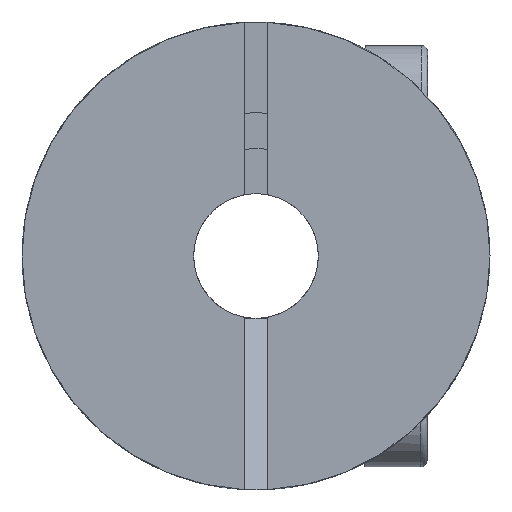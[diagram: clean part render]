
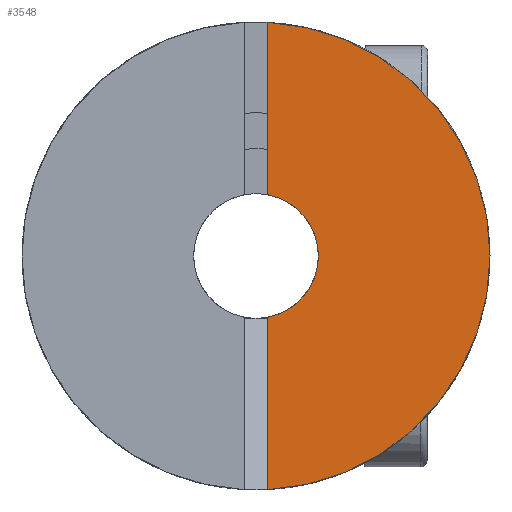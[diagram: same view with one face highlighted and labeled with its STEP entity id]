
A CAD part, front view. The second image highlights one B-rep face of the part: STEP entity #3548.
In plain terms, the highlighted planar face has unit normal (0, -1, 0).
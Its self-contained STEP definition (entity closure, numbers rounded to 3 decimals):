
#306 = VERTEX_POINT ( 'NONE', #4242 ) ;
#326 = EDGE_CURVE ( 'NONE', #306, #2265, #4179, .T. ) ;
#414 = CARTESIAN_POINT ( 'NONE',  ( 0.75, 0., 0. ) ) ;
#1131 = AXIS2_PLACEMENT_3D ( 'NONE', #6870, #2955, #2864 ) ;
#1364 = CARTESIAN_POINT ( 'NONE',  ( 0.75, 0., 0. ) ) ;
#2244 = CARTESIAN_POINT ( 'NONE',  ( 0., 0., 0. ) ) ;
#2265 = VERTEX_POINT ( 'NONE', #6181 ) ;
#2301 = ORIENTED_EDGE ( 'NONE', *, *, #5014, .F. ) ;
#2864 = DIRECTION ( 'NONE',  ( 0., 0., -1. ) ) ;
#2916 = DIRECTION ( 'NONE',  ( 0., 1., 0. ) ) ;
#2955 = DIRECTION ( 'NONE',  ( 0., 1., 0. ) ) ;
#3006 = CARTESIAN_POINT ( 'NONE',  ( 0.75, 0., -14.981 ) ) ;
#3408 = ORIENTED_EDGE ( 'NONE', *, *, #326, .T. ) ;
#3548 = ADVANCED_FACE ( 'NONE', ( #3799 ), #6365, .F. ) ;
#3799 = FACE_OUTER_BOUND ( 'NONE', #5379, .T. ) ;
#4122 = VERTEX_POINT ( 'NONE', #3006 ) ;
#4153 = ORIENTED_EDGE ( 'NONE', *, *, #8188, .F. ) ;
#4179 = CIRCLE ( 'NONE', #1131, 4. ) ;
#4237 = CIRCLE ( 'NONE', #7443, 15. ) ;
#4242 = CARTESIAN_POINT ( 'NONE',  ( 0.75, 0., 3.929 ) ) ;
#4340 = AXIS2_PLACEMENT_3D ( 'NONE', #4634, #6476, #4675 ) ;
#4487 = VECTOR ( 'NONE', #4733, 1000. ) ;
#4634 = CARTESIAN_POINT ( 'NONE',  ( 0., 0., 0. ) ) ;
#4675 = DIRECTION ( 'NONE',  ( 0., 0., 1. ) ) ;
#4733 = DIRECTION ( 'NONE',  ( 0., 0., 1. ) ) ;
#4931 = EDGE_CURVE ( 'NONE', #4122, #2265, #5375, .T. ) ;
#5014 = EDGE_CURVE ( 'NONE', #306, #5231, #7959, .T. ) ;
#5231 = VERTEX_POINT ( 'NONE', #5282 ) ;
#5252 = ORIENTED_EDGE ( 'NONE', *, *, #4931, .F. ) ;
#5282 = CARTESIAN_POINT ( 'NONE',  ( 0.75, 0., 14.981 ) ) ;
#5375 = LINE ( 'NONE', #1364, #4487 ) ;
#5379 = EDGE_LOOP ( 'NONE', ( #4153, #2301, #3408, #5252 ) ) ;
#5728 = VECTOR ( 'NONE', #7281, 1000. ) ;
#6019 = DIRECTION ( 'NONE',  ( 0., 0., -1. ) ) ;
#6181 = CARTESIAN_POINT ( 'NONE',  ( 0.75, 0., -3.929 ) ) ;
#6365 = PLANE ( 'NONE',  #4340 ) ;
#6476 = DIRECTION ( 'NONE',  ( 0., 1., 0. ) ) ;
#6870 = CARTESIAN_POINT ( 'NONE',  ( 0., 0., 0. ) ) ;
#7281 = DIRECTION ( 'NONE',  ( 0., 0., 1. ) ) ;
#7443 = AXIS2_PLACEMENT_3D ( 'NONE', #2244, #2916, #6019 ) ;
#7959 = LINE ( 'NONE', #414, #5728 ) ;
#8188 = EDGE_CURVE ( 'NONE', #5231, #4122, #4237, .T. ) ;
